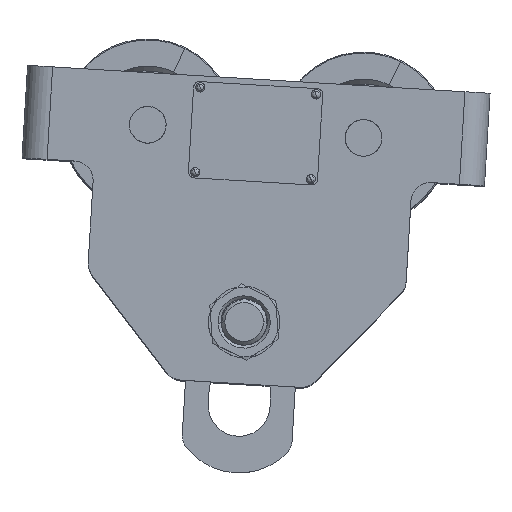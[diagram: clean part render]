
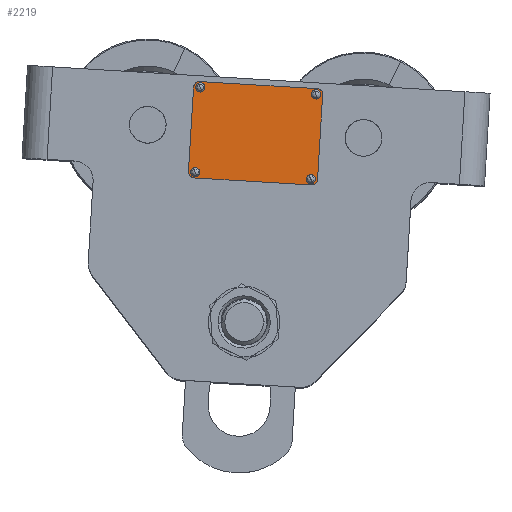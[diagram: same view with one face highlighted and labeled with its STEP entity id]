
A CAD part, top view. The second image highlights one B-rep face of the part: STEP entity #2219.
In plain terms, the highlighted planar face has unit normal (0, 0, 1).
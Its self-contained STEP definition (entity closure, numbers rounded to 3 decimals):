
#280 = VERTEX_POINT ( 'NONE', #18773 ) ;
#287 = ORIENTED_EDGE ( 'NONE', *, *, #4113, .T. ) ;
#365 = ORIENTED_EDGE ( 'NONE', *, *, #30552, .F. ) ;
#444 = CARTESIAN_POINT ( 'NONE',  ( 30., 22., 0.5 ) ) ;
#485 = DIRECTION ( 'NONE',  ( -1., 0., 0. ) ) ;
#941 = DIRECTION ( 'NONE',  ( -1., 0., 0. ) ) ;
#948 = LINE ( 'NONE', #8087, #3647 ) ;
#1018 = CARTESIAN_POINT ( 'NONE',  ( 30.5, -25., 0.5 ) ) ;
#1190 = CARTESIAN_POINT ( 'NONE',  ( -30., -22., 0.5 ) ) ;
#1568 = EDGE_CURVE ( 'NONE', #25267, #35879, #7262, .T. ) ;
#1914 = AXIS2_PLACEMENT_3D ( 'NONE', #21323, #20954, #9455 ) ;
#2148 = AXIS2_PLACEMENT_3D ( 'NONE', #15493, #6927, #21556 ) ;
#2219 = ADVANCED_FACE ( 'NONE', ( #16691, #30181, #17623, #17184, #9491 ), #12488, .F. ) ;
#2289 = VERTEX_POINT ( 'NONE', #27065 ) ;
#2568 = CARTESIAN_POINT ( 'NONE',  ( 30.5, -22., 0.5 ) ) ;
#2587 = CIRCLE ( 'NONE', #5034, 1.5 ) ;
#3264 = DIRECTION ( 'NONE',  ( 0., 0., 1. ) ) ;
#3551 = CIRCLE ( 'NONE', #17584, 1.5 ) ;
#3565 = AXIS2_PLACEMENT_3D ( 'NONE', #17449, #23479, #9106 ) ;
#3647 = VECTOR ( 'NONE', #22493, 1000. ) ;
#4113 = EDGE_CURVE ( 'NONE', #36545, #27158, #4898, .T. ) ;
#4360 = CIRCLE ( 'NONE', #12108, 1.5 ) ;
#4898 = CIRCLE ( 'NONE', #30398, 3. ) ;
#5034 = AXIS2_PLACEMENT_3D ( 'NONE', #1190, #21327, #941 ) ;
#5341 = DIRECTION ( 'NONE',  ( 1., 0., 0. ) ) ;
#5564 = ORIENTED_EDGE ( 'NONE', *, *, #13479, .F. ) ;
#6117 = VERTEX_POINT ( 'NONE', #32871 ) ;
#6127 = ORIENTED_EDGE ( 'NONE', *, *, #16027, .F. ) ;
#6191 = ORIENTED_EDGE ( 'NONE', *, *, #11492, .F. ) ;
#6741 = CARTESIAN_POINT ( 'NONE',  ( 33.5, 22., 0.5 ) ) ;
#6927 = DIRECTION ( 'NONE',  ( 0., 0., 1. ) ) ;
#7262 = CIRCLE ( 'NONE', #3565, 3. ) ;
#7521 = DIRECTION ( 'NONE',  ( 0., 0., 1. ) ) ;
#8087 = CARTESIAN_POINT ( 'NONE',  ( 33.5, -22., 0.5 ) ) ;
#8344 = AXIS2_PLACEMENT_3D ( 'NONE', #22769, #34294, #25529 ) ;
#8360 = LINE ( 'NONE', #11402, #27309 ) ;
#8906 = EDGE_CURVE ( 'NONE', #10414, #26190, #12704, .T. ) ;
#8949 = AXIS2_PLACEMENT_3D ( 'NONE', #35541, #26911, #9422 ) ;
#9106 = DIRECTION ( 'NONE',  ( -1., 0., 0. ) ) ;
#9348 = EDGE_CURVE ( 'NONE', #12998, #18883, #14522, .T. ) ;
#9422 = DIRECTION ( 'NONE',  ( 1., 0., 0. ) ) ;
#9455 = DIRECTION ( 'NONE',  ( -1., 0., 0. ) ) ;
#9491 = FACE_BOUND ( 'NONE', #36520, .T. ) ;
#9852 = CARTESIAN_POINT ( 'NONE',  ( 33.5, -22., 0.5 ) ) ;
#10414 = VERTEX_POINT ( 'NONE', #22589 ) ;
#10768 = CARTESIAN_POINT ( 'NONE',  ( -31.5, -22., 0.5 ) ) ;
#11327 = ORIENTED_EDGE ( 'NONE', *, *, #9348, .T. ) ;
#11402 = CARTESIAN_POINT ( 'NONE',  ( -30.5, 25., 0.5 ) ) ;
#11492 = EDGE_CURVE ( 'NONE', #22165, #31005, #26579, .T. ) ;
#11890 = ORIENTED_EDGE ( 'NONE', *, *, #35714, .F. ) ;
#11974 = EDGE_LOOP ( 'NONE', ( #5564, #6191 ) ) ;
#12108 = AXIS2_PLACEMENT_3D ( 'NONE', #34472, #36832, #19678 ) ;
#12488 = PLANE ( 'NONE',  #1914 ) ;
#12704 = CIRCLE ( 'NONE', #33127, 1.5 ) ;
#12998 = VERTEX_POINT ( 'NONE', #26504 ) ;
#13479 = EDGE_CURVE ( 'NONE', #31005, #22165, #3551, .T. ) ;
#13837 = CARTESIAN_POINT ( 'NONE',  ( 30., 22., 0.5 ) ) ;
#14085 = DIRECTION ( 'NONE',  ( -1., 0., 0. ) ) ;
#14430 = DIRECTION ( 'NONE',  ( -1., 0., 0. ) ) ;
#14522 = CIRCLE ( 'NONE', #31209, 3. ) ;
#14575 = CARTESIAN_POINT ( 'NONE',  ( -30.5, -25., 0.5 ) ) ;
#15343 = CIRCLE ( 'NONE', #28576, 1.5 ) ;
#15493 = CARTESIAN_POINT ( 'NONE',  ( -30.5, 22., 0.5 ) ) ;
#15683 = EDGE_CURVE ( 'NONE', #18883, #36545, #24171, .T. ) ;
#15734 = CARTESIAN_POINT ( 'NONE',  ( -28.5, -22., 0.5 ) ) ;
#15966 = CARTESIAN_POINT ( 'NONE',  ( -30.5, -22., 0.5 ) ) ;
#16027 = EDGE_CURVE ( 'NONE', #27967, #35068, #2587, .T. ) ;
#16646 = DIRECTION ( 'NONE',  ( 1., 0., 0. ) ) ;
#16681 = EDGE_CURVE ( 'NONE', #35879, #2289, #8360, .T. ) ;
#16691 = FACE_OUTER_BOUND ( 'NONE', #31811, .T. ) ;
#17184 = FACE_BOUND ( 'NONE', #22432, .T. ) ;
#17449 = CARTESIAN_POINT ( 'NONE',  ( 30.5, 22., 0.5 ) ) ;
#17584 = AXIS2_PLACEMENT_3D ( 'NONE', #28238, #36858, #5341 ) ;
#17623 = FACE_BOUND ( 'NONE', #26348, .T. ) ;
#18171 = ORIENTED_EDGE ( 'NONE', *, *, #16681, .T. ) ;
#18225 = EDGE_CURVE ( 'NONE', #27866, #6117, #29939, .T. ) ;
#18773 = CARTESIAN_POINT ( 'NONE',  ( -33.5, 22., 0.5 ) ) ;
#18883 = VERTEX_POINT ( 'NONE', #14575 ) ;
#18993 = EDGE_CURVE ( 'NONE', #35068, #27967, #32121, .T. ) ;
#19123 = ORIENTED_EDGE ( 'NONE', *, *, #25889, .T. ) ;
#19678 = DIRECTION ( 'NONE',  ( 1., 0., 0. ) ) ;
#19877 = ORIENTED_EDGE ( 'NONE', *, *, #1568, .T. ) ;
#20954 = DIRECTION ( 'NONE',  ( 0., 0., -1. ) ) ;
#21063 = CARTESIAN_POINT ( 'NONE',  ( 28.5, -22., 0.5 ) ) ;
#21182 = CARTESIAN_POINT ( 'NONE',  ( -31.5, 22., 0.5 ) ) ;
#21323 = CARTESIAN_POINT ( 'NONE',  ( -30.5, -22., 0.5 ) ) ;
#21327 = DIRECTION ( 'NONE',  ( 0., 0., 1. ) ) ;
#21556 = DIRECTION ( 'NONE',  ( 1., 0., 0. ) ) ;
#22109 = CARTESIAN_POINT ( 'NONE',  ( -30.5, -25., 0.5 ) ) ;
#22158 = DIRECTION ( 'NONE',  ( -1., 0., 0. ) ) ;
#22165 = VERTEX_POINT ( 'NONE', #29133 ) ;
#22432 = EDGE_LOOP ( 'NONE', ( #28403, #365 ) ) ;
#22493 = DIRECTION ( 'NONE',  ( 0., 1., 0. ) ) ;
#22589 = CARTESIAN_POINT ( 'NONE',  ( 28.5, 22., 0.5 ) ) ;
#22769 = CARTESIAN_POINT ( 'NONE',  ( -30., 22., 0.5 ) ) ;
#23468 = DIRECTION ( 'NONE',  ( 0., 0., 1. ) ) ;
#23479 = DIRECTION ( 'NONE',  ( 0., 0., 1. ) ) ;
#24171 = LINE ( 'NONE', #22109, #24644 ) ;
#24644 = VECTOR ( 'NONE', #28215, 1000. ) ;
#25267 = VERTEX_POINT ( 'NONE', #6741 ) ;
#25529 = DIRECTION ( 'NONE',  ( 1., 0., 0. ) ) ;
#25614 = EDGE_CURVE ( 'NONE', #27158, #25267, #948, .T. ) ;
#25889 = EDGE_CURVE ( 'NONE', #2289, #280, #28395, .T. ) ;
#26190 = VERTEX_POINT ( 'NONE', #36785 ) ;
#26348 = EDGE_LOOP ( 'NONE', ( #27722, #11890 ) ) ;
#26352 = DIRECTION ( 'NONE',  ( -1., 0., 0. ) ) ;
#26504 = CARTESIAN_POINT ( 'NONE',  ( -33.5, -22., 0.5 ) ) ;
#26579 = CIRCLE ( 'NONE', #8344, 1.5 ) ;
#26911 = DIRECTION ( 'NONE',  ( 0., 0., 1. ) ) ;
#27065 = CARTESIAN_POINT ( 'NONE',  ( -30.5, 25., 0.5 ) ) ;
#27158 = VERTEX_POINT ( 'NONE', #9852 ) ;
#27309 = VECTOR ( 'NONE', #14430, 1000. ) ;
#27722 = ORIENTED_EDGE ( 'NONE', *, *, #8906, .F. ) ;
#27866 = VERTEX_POINT ( 'NONE', #21063 ) ;
#27967 = VERTEX_POINT ( 'NONE', #15734 ) ;
#28210 = VECTOR ( 'NONE', #33968, 1000. ) ;
#28215 = DIRECTION ( 'NONE',  ( 1., 0., 0. ) ) ;
#28238 = CARTESIAN_POINT ( 'NONE',  ( -30., 22., 0.5 ) ) ;
#28395 = CIRCLE ( 'NONE', #2148, 3. ) ;
#28403 = ORIENTED_EDGE ( 'NONE', *, *, #18225, .F. ) ;
#28576 = AXIS2_PLACEMENT_3D ( 'NONE', #444, #23468, #26352 ) ;
#29133 = CARTESIAN_POINT ( 'NONE',  ( -28.5, 22., 0.5 ) ) ;
#29420 = CARTESIAN_POINT ( 'NONE',  ( -30., -22., 0.5 ) ) ;
#29939 = CIRCLE ( 'NONE', #8949, 1.5 ) ;
#30027 = LINE ( 'NONE', #31578, #28210 ) ;
#30166 = ORIENTED_EDGE ( 'NONE', *, *, #15683, .T. ) ;
#30181 = FACE_BOUND ( 'NONE', #11974, .T. ) ;
#30398 = AXIS2_PLACEMENT_3D ( 'NONE', #2568, #31087, #16646 ) ;
#30508 = EDGE_CURVE ( 'NONE', #280, #12998, #30027, .T. ) ;
#30552 = EDGE_CURVE ( 'NONE', #6117, #27866, #4360, .T. ) ;
#31005 = VERTEX_POINT ( 'NONE', #21182 ) ;
#31087 = DIRECTION ( 'NONE',  ( 0., 0., 1. ) ) ;
#31209 = AXIS2_PLACEMENT_3D ( 'NONE', #15966, #7521, #22158 ) ;
#31299 = DIRECTION ( 'NONE',  ( 0., 0., 1. ) ) ;
#31578 = CARTESIAN_POINT ( 'NONE',  ( -33.5, -22., 0.5 ) ) ;
#31800 = ORIENTED_EDGE ( 'NONE', *, *, #18993, .F. ) ;
#31811 = EDGE_LOOP ( 'NONE', ( #11327, #30166, #287, #32271, #19877, #18171, #19123, #34011 ) ) ;
#32121 = CIRCLE ( 'NONE', #32669, 1.5 ) ;
#32271 = ORIENTED_EDGE ( 'NONE', *, *, #25614, .T. ) ;
#32669 = AXIS2_PLACEMENT_3D ( 'NONE', #29420, #3264, #485 ) ;
#32692 = CARTESIAN_POINT ( 'NONE',  ( 30.5, 25., 0.5 ) ) ;
#32871 = CARTESIAN_POINT ( 'NONE',  ( 31.5, -22., 0.5 ) ) ;
#33127 = AXIS2_PLACEMENT_3D ( 'NONE', #13837, #31299, #14085 ) ;
#33968 = DIRECTION ( 'NONE',  ( 0., -1., 0. ) ) ;
#34011 = ORIENTED_EDGE ( 'NONE', *, *, #30508, .T. ) ;
#34294 = DIRECTION ( 'NONE',  ( 0., 0., 1. ) ) ;
#34472 = CARTESIAN_POINT ( 'NONE',  ( 30., -22., 0.5 ) ) ;
#35068 = VERTEX_POINT ( 'NONE', #10768 ) ;
#35541 = CARTESIAN_POINT ( 'NONE',  ( 30., -22., 0.5 ) ) ;
#35714 = EDGE_CURVE ( 'NONE', #26190, #10414, #15343, .T. ) ;
#35879 = VERTEX_POINT ( 'NONE', #32692 ) ;
#36520 = EDGE_LOOP ( 'NONE', ( #31800, #6127 ) ) ;
#36545 = VERTEX_POINT ( 'NONE', #1018 ) ;
#36785 = CARTESIAN_POINT ( 'NONE',  ( 31.5, 22., 0.5 ) ) ;
#36832 = DIRECTION ( 'NONE',  ( 0., 0., 1. ) ) ;
#36858 = DIRECTION ( 'NONE',  ( 0., 0., 1. ) ) ;
